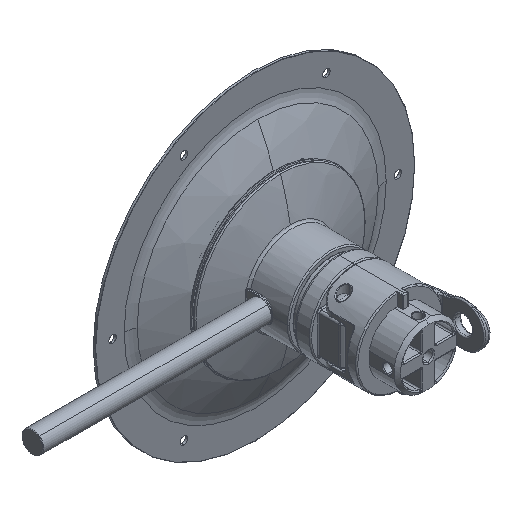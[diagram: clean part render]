
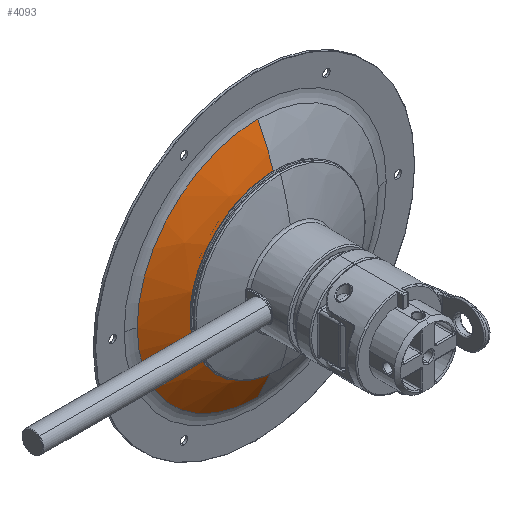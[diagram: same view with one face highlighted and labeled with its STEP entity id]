
A CAD part, isometric view. The second image highlights one B-rep face of the part: STEP entity #4093.
In plain terms, the highlighted spherical face has radius 229 mm.
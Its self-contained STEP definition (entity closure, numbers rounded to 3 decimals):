
#1870 = AXIS2_PLACEMENT_3D ( 'NONE', #32915, #39046, #23155 ) ;
#1910 = CIRCLE ( 'NONE', #39217, 229. ) ;
#2188 = EDGE_CURVE ( 'NONE', #40316, #14980, #3703, .T. ) ;
#2264 = CARTESIAN_POINT ( 'NONE',  ( 0., -4.256, 0. ) ) ;
#2453 = AXIS2_PLACEMENT_3D ( 'NONE', #57038, #52152, #61592 ) ;
#2570 = DIRECTION ( 'NONE',  ( 0., 0., -1. ) ) ;
#3703 = CIRCLE ( 'NONE', #57594, 105.65 ) ;
#4093 = ADVANCED_FACE ( 'NONE', ( #33231 ), #63112, .T. ) ;
#4526 = CIRCLE ( 'NONE', #56371, 105.65 ) ;
#5193 = AXIS2_PLACEMENT_3D ( 'NONE', #13424, #58536, #33868 ) ;
#5376 = DIRECTION ( 'NONE',  ( -1., 0., 0. ) ) ;
#5691 = CARTESIAN_POINT ( 'NONE',  ( -105.65, -4.256, 0. ) ) ;
#5785 = DIRECTION ( 'NONE',  ( 0., -1., 0. ) ) ;
#7255 = ORIENTED_EDGE ( 'NONE', *, *, #27214, .F. ) ;
#7478 = EDGE_LOOP ( 'NONE', ( #7255, #48975, #44672, #49943, #45734, #35746 ) ) ;
#7754 = CARTESIAN_POINT ( 'NONE',  ( -40.352, -26.5, 0. ) ) ;
#13115 = CARTESIAN_POINT ( 'NONE',  ( 40.352, -26.5, 0. ) ) ;
#13424 = CARTESIAN_POINT ( 'NONE',  ( 0., -26.5, 0. ) ) ;
#14980 = VERTEX_POINT ( 'NONE', #53035 ) ;
#17954 = CIRCLE ( 'NONE', #2453, 40.352 ) ;
#18282 = AXIS2_PLACEMENT_3D ( 'NONE', #22129, #41615, #5376 ) ;
#18817 = CIRCLE ( 'NONE', #5193, 40.352 ) ;
#20139 = CARTESIAN_POINT ( 'NONE',  ( 0., 198.917, 0. ) ) ;
#20355 = CIRCLE ( 'NONE', #18282, 229. ) ;
#22129 = CARTESIAN_POINT ( 'NONE',  ( 0., 198.917, 0. ) ) ;
#23155 = DIRECTION ( 'NONE',  ( -1., 0., 0. ) ) ;
#25332 = DIRECTION ( 'NONE',  ( 0., 0., 1. ) ) ;
#25667 = DIRECTION ( 'NONE',  ( 1., 0., 0. ) ) ;
#27214 = EDGE_CURVE ( 'NONE', #40316, #43335, #20355, .T. ) ;
#28683 = CARTESIAN_POINT ( 'NONE',  ( 0., -26.5, 40.352 ) ) ;
#32915 = CARTESIAN_POINT ( 'NONE',  ( 0., 198.917, 0. ) ) ;
#33231 = FACE_OUTER_BOUND ( 'NONE', #7478, .T. ) ;
#33868 = DIRECTION ( 'NONE',  ( 0., 0., -1. ) ) ;
#35746 = ORIENTED_EDGE ( 'NONE', *, *, #49604, .F. ) ;
#39046 = DIRECTION ( 'NONE',  ( 0., 0., -1. ) ) ;
#39217 = AXIS2_PLACEMENT_3D ( 'NONE', #20139, #25332, #25667 ) ;
#40316 = VERTEX_POINT ( 'NONE', #50123 ) ;
#40805 = CARTESIAN_POINT ( 'NONE',  ( 0., -4.256, 0. ) ) ;
#41615 = DIRECTION ( 'NONE',  ( 0., 0., -1. ) ) ;
#42770 = EDGE_CURVE ( 'NONE', #55951, #43861, #17954, .T. ) ;
#43335 = VERTEX_POINT ( 'NONE', #13115 ) ;
#43548 = EDGE_CURVE ( 'NONE', #14980, #51149, #4526, .T. ) ;
#43861 = VERTEX_POINT ( 'NONE', #7754 ) ;
#44672 = ORIENTED_EDGE ( 'NONE', *, *, #43548, .T. ) ;
#45734 = ORIENTED_EDGE ( 'NONE', *, *, #42770, .F. ) ;
#48975 = ORIENTED_EDGE ( 'NONE', *, *, #2188, .T. ) ;
#49604 = EDGE_CURVE ( 'NONE', #43335, #55951, #18817, .T. ) ;
#49943 = ORIENTED_EDGE ( 'NONE', *, *, #61149, .T. ) ;
#50123 = CARTESIAN_POINT ( 'NONE',  ( 105.65, -4.256, 0. ) ) ;
#51149 = VERTEX_POINT ( 'NONE', #5691 ) ;
#51598 = DIRECTION ( 'NONE',  ( 0., -1., 0. ) ) ;
#52152 = DIRECTION ( 'NONE',  ( 0., -1., 0. ) ) ;
#53035 = CARTESIAN_POINT ( 'NONE',  ( 0., -4.256, 105.65 ) ) ;
#55770 = DIRECTION ( 'NONE',  ( 0., 0., -1. ) ) ;
#55951 = VERTEX_POINT ( 'NONE', #28683 ) ;
#56371 = AXIS2_PLACEMENT_3D ( 'NONE', #40805, #5785, #55770 ) ;
#57038 = CARTESIAN_POINT ( 'NONE',  ( 0., -26.5, 0. ) ) ;
#57594 = AXIS2_PLACEMENT_3D ( 'NONE', #2264, #51598, #2570 ) ;
#58536 = DIRECTION ( 'NONE',  ( 0., -1., 0. ) ) ;
#61149 = EDGE_CURVE ( 'NONE', #51149, #43861, #1910, .T. ) ;
#61592 = DIRECTION ( 'NONE',  ( 0., 0., -1. ) ) ;
#63112 = SPHERICAL_SURFACE ( 'NONE', #1870, 229. ) ;
